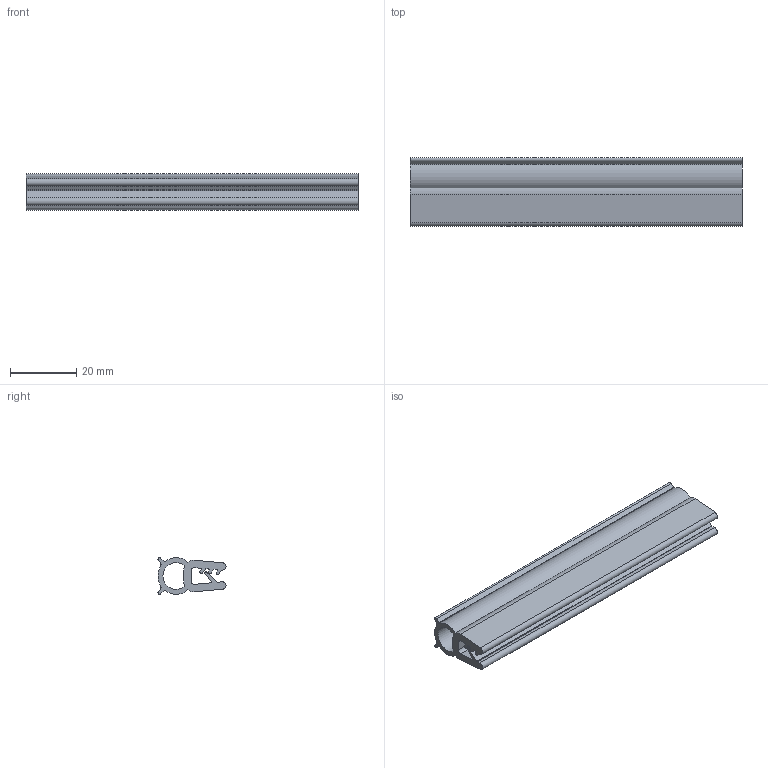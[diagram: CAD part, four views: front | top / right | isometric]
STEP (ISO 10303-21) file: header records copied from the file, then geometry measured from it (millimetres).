
FILE_DESCRIPTION( ( 'STEP AP203' ), '1' );
FILE_NAME( 'C:/Temp/Ganter_Step_05_03_2020/data/3_3/gn2180/Edge protection seal profile GN 2180-NBR-20,5-A-50.stp', '2020-03-12T12:04:05', ( 'License CC BY-ND 4.0' ), ( 'CADENAS' ), ' ', 'PARTsolutions', ' ' );
FILE_SCHEMA( ( 'CONFIG_CONTROL_DESIGN' ) );
Length unit declared in the file: millimetre
Products named in the file (1): _Edge protection seal profile GN 2180-NBR-20,5-A-50
Bounding box: 100 x 20.5 x 11 mm (x, y, z)
Volume: 10914.3 mm3; surface area: 12318.2 mm2
Topology: 1 solids, 1 shells, 55 faces, 159 edges, 106 vertices
Faces by surface type: cylinder 32, plane 23
Entity records: 1885 total; most frequent: DIRECTION 335, CARTESIAN_POINT 321, ORIENTED_EDGE 318, EDGE_CURVE 159, AXIS2_PLACEMENT_3D 120, VERTEX_POINT 106, LINE 95, VECTOR 95
